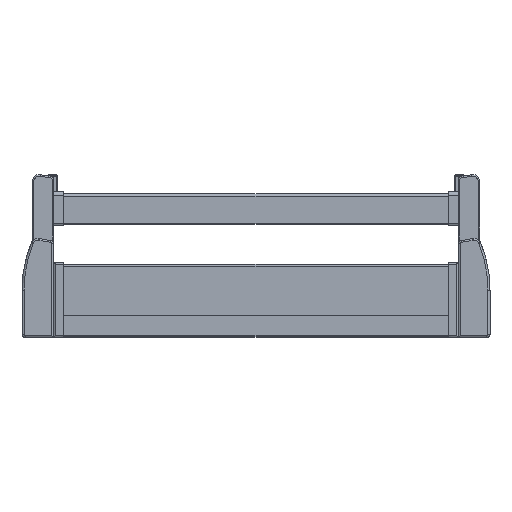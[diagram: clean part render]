
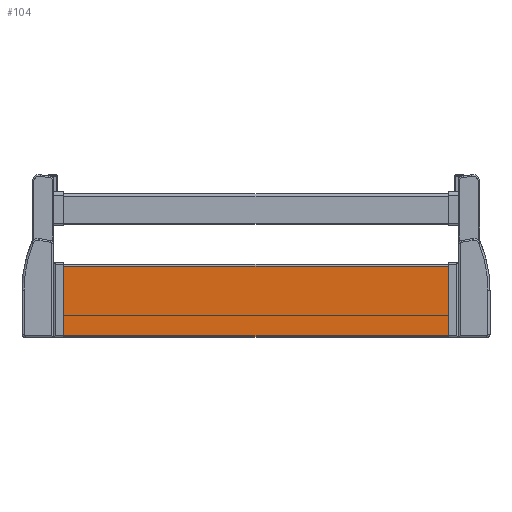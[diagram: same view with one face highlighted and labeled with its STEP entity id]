
A CAD part, top view. The second image highlights one B-rep face of the part: STEP entity #104.
In plain terms, the highlighted planar face has unit normal (0, 0, 1).
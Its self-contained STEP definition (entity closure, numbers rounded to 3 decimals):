
#19 = EDGE_LOOP ( 'NONE', ( #20, #21, #23, #300 ) ) ;
#20 = ORIENTED_EDGE ( 'NONE', *, *, #99, .F. ) ;
#21 = ORIENTED_EDGE ( 'NONE', *, *, #6891, .T. ) ;
#23 = ORIENTED_EDGE ( 'NONE', *, *, #24, .T. ) ;
#24 = EDGE_CURVE ( 'NONE', #7053, #299, #1001, .T. ) ;
#99 = EDGE_CURVE ( 'NONE', #7055, #101, #1231, .T. ) ;
#101 = VERTEX_POINT ( 'NONE', #1226 ) ;
#104 = ADVANCED_FACE ( 'NONE', ( #1220 ), #1219, .F. ) ;
#299 = VERTEX_POINT ( 'NONE', #1553 ) ;
#300 = ORIENTED_EDGE ( 'NONE', *, *, #301, .F. ) ;
#301 = EDGE_CURVE ( 'NONE', #101, #299, #1552, .T. ) ;
#998 = DIRECTION ( 'NONE',  ( -1., 0., 0. ) ) ;
#999 = VECTOR ( 'NONE', #998, 1000. ) ;
#1000 = CARTESIAN_POINT ( 'NONE',  ( 262.556, -23., 1.4 ) ) ;
#1001 = LINE ( 'NONE', #1000, #999 ) ;
#1215 = DIRECTION ( 'NONE',  ( 0., 1., 0. ) ) ;
#1216 = DIRECTION ( 'NONE',  ( 0., 0., -1. ) ) ;
#1217 = CARTESIAN_POINT ( 'NONE',  ( 262.556, -92.5, 1.4 ) ) ;
#1218 = AXIS2_PLACEMENT_3D ( 'NONE', #1217, #1216, #1215 ) ;
#1219 = PLANE ( 'NONE',  #1218 ) ;
#1220 = FACE_OUTER_BOUND ( 'NONE', #19, .T. ) ;
#1226 = CARTESIAN_POINT ( 'NONE',  ( -188.8, -92.5, 1.4 ) ) ;
#1228 = DIRECTION ( 'NONE',  ( -1., 0., 0. ) ) ;
#1229 = VECTOR ( 'NONE', #1228, 1000. ) ;
#1230 = CARTESIAN_POINT ( 'NONE',  ( 262.556, -92.5, 1.4 ) ) ;
#1231 = LINE ( 'NONE', #1230, #1229 ) ;
#1549 = DIRECTION ( 'NONE',  ( 0., 1., 0. ) ) ;
#1550 = VECTOR ( 'NONE', #1549, 1000. ) ;
#1551 = CARTESIAN_POINT ( 'NONE',  ( -188.8, -92.5, 1.4 ) ) ;
#1552 = LINE ( 'NONE', #1551, #1550 ) ;
#1553 = CARTESIAN_POINT ( 'NONE',  ( -188.8, -23., 1.4 ) ) ;
#5576 = DIRECTION ( 'NONE',  ( 0., 1., 0. ) ) ;
#5577 = VECTOR ( 'NONE', #5576, 1000. ) ;
#5578 = CARTESIAN_POINT ( 'NONE',  ( 188.8, -92.5, 1.4 ) ) ;
#5583 = LINE ( 'NONE', #5578, #5577 ) ;
#5873 = CARTESIAN_POINT ( 'NONE',  ( 188.8, -92.5, 1.4 ) ) ;
#5874 = CARTESIAN_POINT ( 'NONE',  ( 188.8, -23., 1.4 ) ) ;
#6891 = EDGE_CURVE ( 'NONE', #7055, #7053, #5583, .T. ) ;
#7053 = VERTEX_POINT ( 'NONE', #5874 ) ;
#7055 = VERTEX_POINT ( 'NONE', #5873 ) ;
